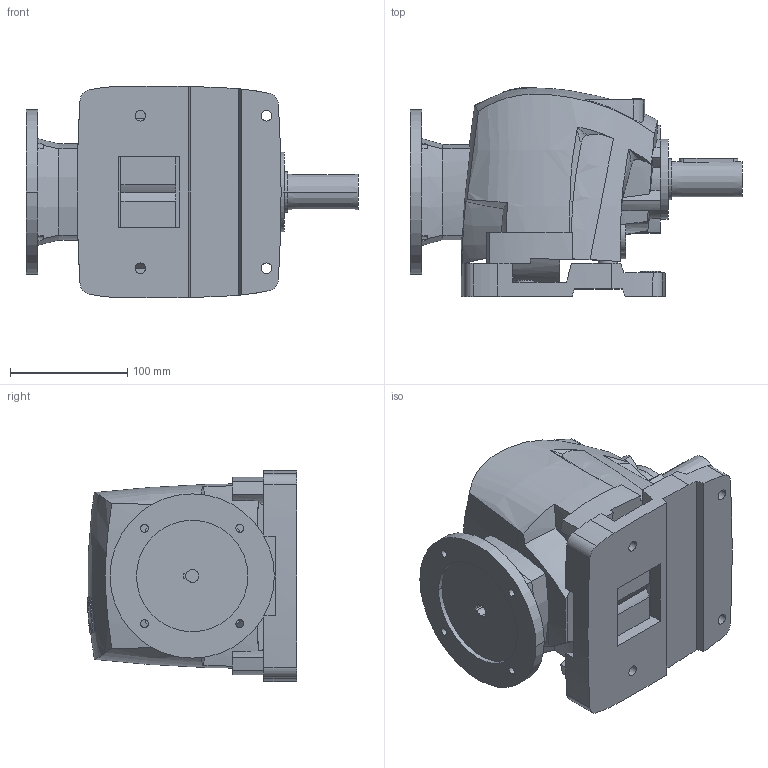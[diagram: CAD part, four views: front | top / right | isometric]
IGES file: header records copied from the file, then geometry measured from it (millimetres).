
Start section:  PTC IGES file: r25_bf_pam63_d2.igs
Global section: file name: r25_bf_pam63_d2.igs; native system: Pro/ENGINEER by Parametric Technology Corporation; preprocessor: 2008230; author: Luca; organization: Unknown; date: 20131216.115417; units: millimetre
Bounding box: 283 x 178.3 x 180.47 mm (x, y, z)
Volume: 3886521.4 mm3; surface area: 248373.9 mm2
Topology: 1 solids, 5 shells, 448 faces, 1247 edges, 833 vertices
Faces by surface type: bspline 276, revolution 170, extrusion 2
